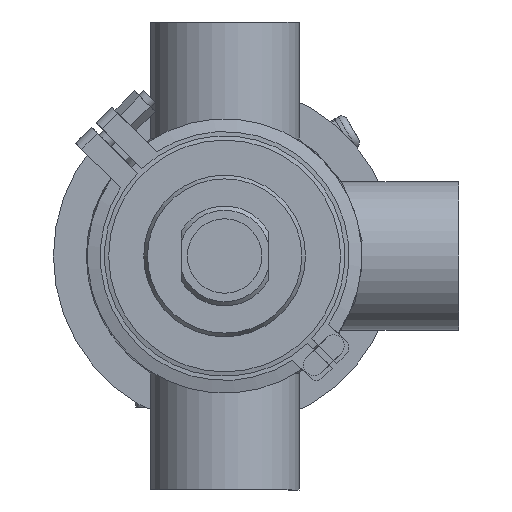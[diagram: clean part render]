
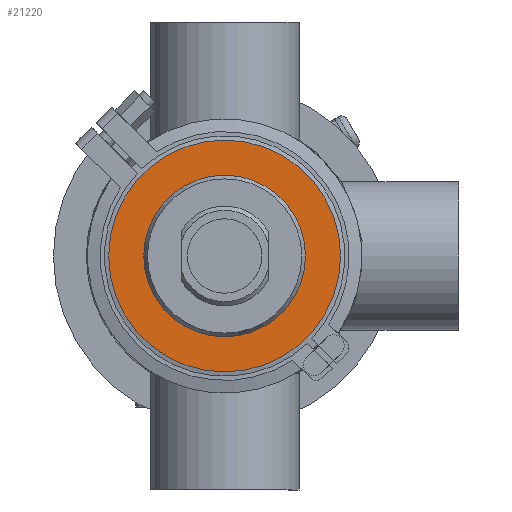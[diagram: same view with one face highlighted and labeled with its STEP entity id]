
A CAD part, front view. The second image highlights one B-rep face of the part: STEP entity #21220.
In plain terms, the highlighted planar face has unit normal (0, -1, 0).
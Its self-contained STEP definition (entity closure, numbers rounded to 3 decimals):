
#1898 = EDGE_CURVE ( 'NONE', #58647, #58647, #42717, .T. ) ;
#9831 = AXIS2_PLACEMENT_3D ( 'NONE', #12396, #36502, #31996 ) ;
#10500 = DIRECTION ( 'NONE',  ( 0., 1., 0. ) ) ;
#10510 = CARTESIAN_POINT ( 'NONE',  ( 0., -13., 54.5 ) ) ;
#12396 = CARTESIAN_POINT ( 'NONE',  ( 0., -13., 0. ) ) ;
#13267 = EDGE_LOOP ( 'NONE', ( #28868 ) ) ;
#15069 = AXIS2_PLACEMENT_3D ( 'NONE', #59626, #10500, #59296 ) ;
#15411 = ORIENTED_EDGE ( 'NONE', *, *, #56428, .T. ) ;
#20286 = CARTESIAN_POINT ( 'NONE',  ( 0., -13., 38. ) ) ;
#21220 = ADVANCED_FACE ( 'NONE', ( #38507, #47868 ), #23162, .T. ) ;
#23162 = PLANE ( 'NONE',  #45494 ) ;
#28868 = ORIENTED_EDGE ( 'NONE', *, *, #1898, .F. ) ;
#28871 = DIRECTION ( 'NONE',  ( 0., 0., -1. ) ) ;
#31388 = CIRCLE ( 'NONE', #9831, 38. ) ;
#31996 = DIRECTION ( 'NONE',  ( 0., 0., 1. ) ) ;
#36502 = DIRECTION ( 'NONE',  ( 0., 1., 0. ) ) ;
#38118 = EDGE_LOOP ( 'NONE', ( #15411 ) ) ;
#38507 = FACE_BOUND ( 'NONE', #38118, .T. ) ;
#42717 = CIRCLE ( 'NONE', #15069, 54.5 ) ;
#45494 = AXIS2_PLACEMENT_3D ( 'NONE', #48176, #57470, #28871 ) ;
#47868 = FACE_OUTER_BOUND ( 'NONE', #13267, .T. ) ;
#48176 = CARTESIAN_POINT ( 'NONE',  ( -54.5, -13., 0. ) ) ;
#48871 = VERTEX_POINT ( 'NONE', #20286 ) ;
#56428 = EDGE_CURVE ( 'NONE', #48871, #48871, #31388, .T. ) ;
#57470 = DIRECTION ( 'NONE',  ( 0., -1., 0. ) ) ;
#58647 = VERTEX_POINT ( 'NONE', #10510 ) ;
#59296 = DIRECTION ( 'NONE',  ( 0., 0., 1. ) ) ;
#59626 = CARTESIAN_POINT ( 'NONE',  ( 0., -13., 0. ) ) ;
